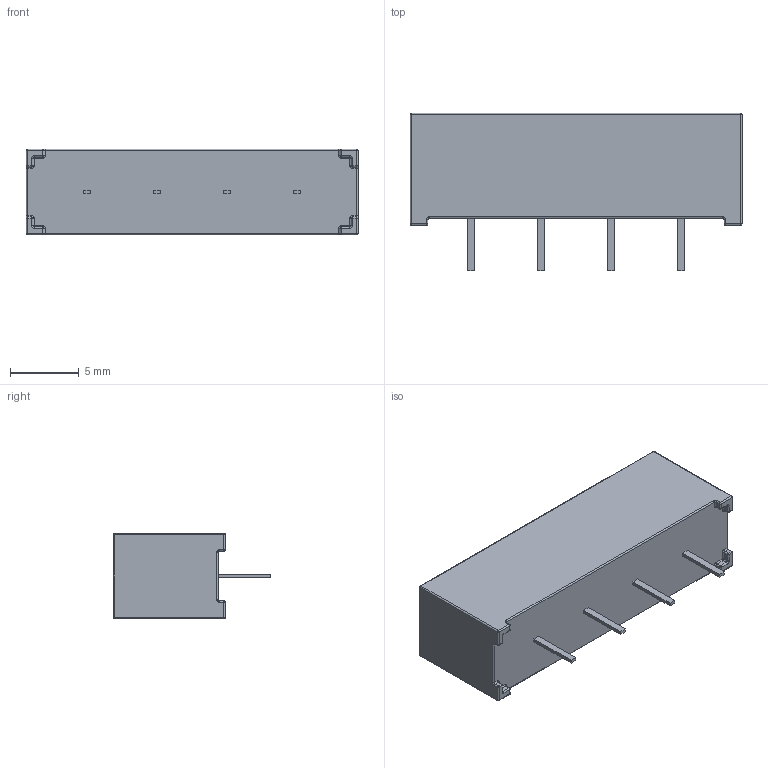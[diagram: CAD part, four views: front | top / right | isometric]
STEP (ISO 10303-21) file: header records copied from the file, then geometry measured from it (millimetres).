
FILE_DESCRIPTION (( 'STEP AP203' ), '1' );
FILE_NAME ('144-1-A-X-2X.STEP', '2024-03-15T15:18:53', ( '' ), ( '' ), 'SwSTEP 2.0', 'SolidWorks 2023', '' );
FILE_SCHEMA (( 'CONFIG_CONTROL_DESIGN' ));
Length unit declared in the file: millimetre
Products named in the file (1): 144-1-A-X-2X
Bounding box: 24.1 x 11.43 x 6.22 mm (x, y, z)
Volume: 1146.4 mm3; surface area: 787.9 mm2
Topology: 1 solids, 1 shells, 793 faces, 2055 edges, 1310 vertices
Faces by surface type: plane 460, bspline 213, cylinder 72, sphere 28, torus 20
Entity records: 35016 total; most frequent: CARTESIAN_POINT 17088, ORIENTED_EDGE 4054, DIRECTION 2927, EDGE_CURVE 2027, LINE 1437, VECTOR 1437, VERTEX_POINT 1310, EDGE_LOOP 867
